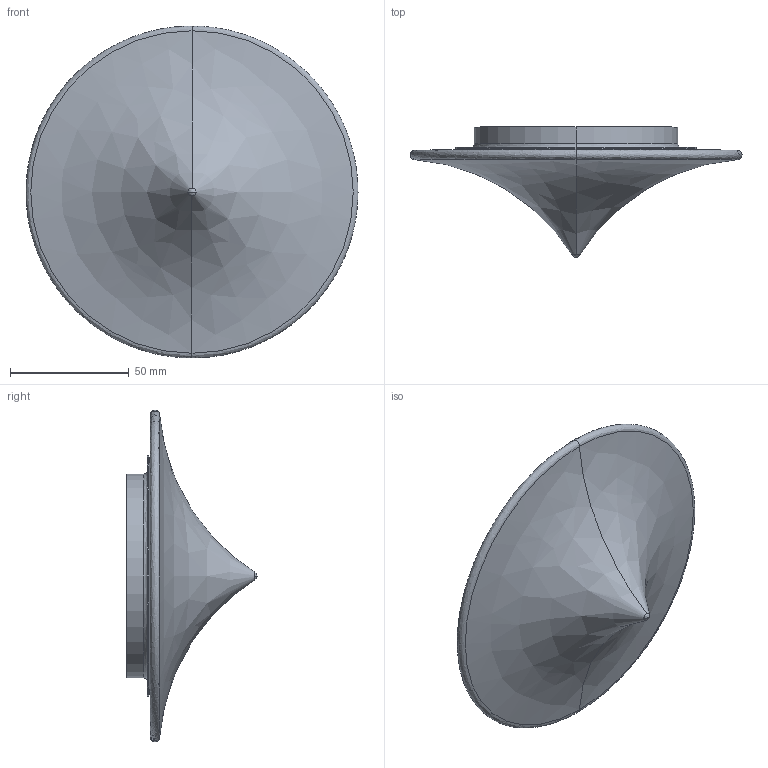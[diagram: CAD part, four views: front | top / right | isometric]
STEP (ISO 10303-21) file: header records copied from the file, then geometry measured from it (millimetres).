
FILE_DESCRIPTION (( 'STEP AP203' ), '1' );
FILE_NAME ('DROP_STEP.STEP', '2015-12-09T16:06:36', ( 'admin' ), ( '' ), 'SwSTEP 2.0', 'SolidWorks 2015', '' );
FILE_SCHEMA (( 'CONFIG_CONTROL_DESIGN' ));
Length unit declared in the file: millimetre
Products named in the file (2): DROP_STEP
Bounding box: 140 x 54.85 x 140 mm (x, y, z)
Volume: 33986.4 mm3; surface area: 64195.4 mm2
Topology: 2 solids, 2 shells, 31 faces, 68 edges, 40 vertices
Faces by surface type: bspline 16, cylinder 6, plane 5, cone 4
Entity records: 2007 total; most frequent: CARTESIAN_POINT 1279, ORIENTED_EDGE 128, DIRECTION 112, EDGE_CURVE 64, AXIS2_PLACEMENT_3D 51, VERTEX_POINT 40, EDGE_LOOP 36, CIRCLE 34
